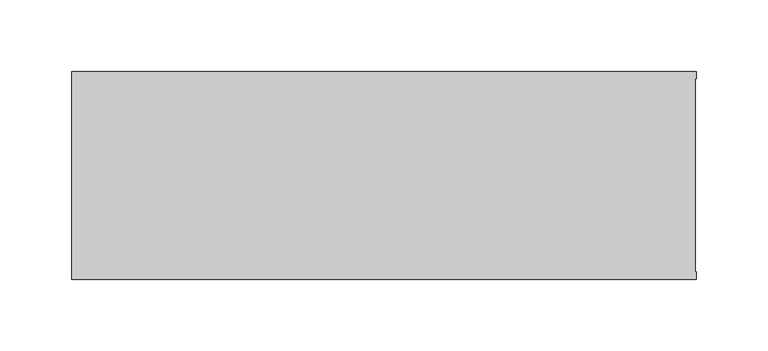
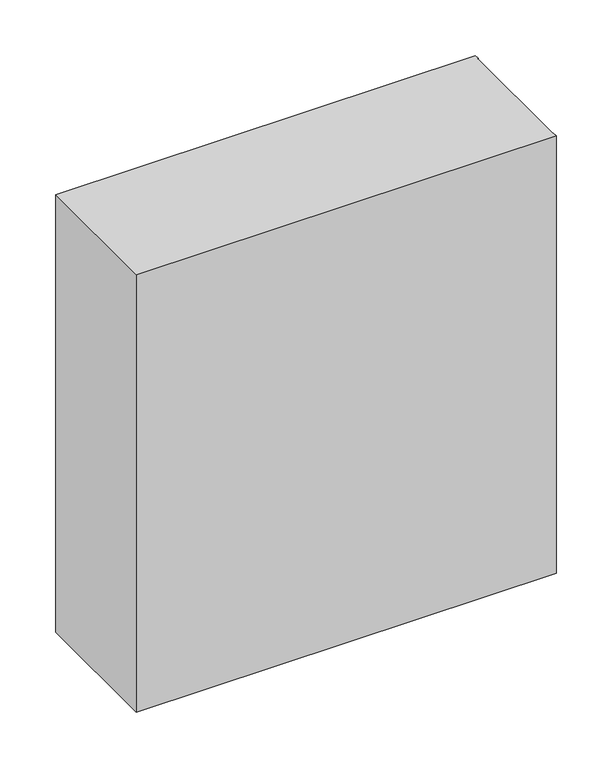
"""IFC4 building model written with IfcOpenShell, lengths in millimetres: proxy geometry, BIMHealth-Danicentre_ppe_Dispenser-LOD2A-v1 : BIMHealth-Danicentre_ppe_Dispenser-LOD2A-v1."""

from ifc_helpers import new_model, si_unit, frame, origin, place, context, project, spatial, polyline, circle_curve, source, transform, mapped, element, save
from ifc_brep_helpers import plane_surface, revolved_surface, advanced_brep


def generic_models_a98e07a5(model_context):
    return source(origin(), model_context, "Body", "AdvancedBrep", [
        advanced_brep(
        [(435.5947115, 0.0, 1680.0), (435.5947115, 0.0, 1200.0), (0.0, 0.0, 1200.0), (0.0, 0.0, 1680.0), (95.0, 0.0, 1600.0), (60.0, 0.0, 1600.0), (60.0, 0.0, 1425.0), (95.0, 0.0, 1425.0), (340.5947115, 0.0, 1600.0), (340.5947115, 0.0, 1425.0), (375.5947115, 0.0, 1425.0), (375.5947115, 0.0, 1600.0), (235.2973558, 0.0, 1600.0), (200.2973558, 0.0, 1600.0), (200.2973558, 0.0, 1425.0), (235.2973558, 0.0, 1425.0), (60.0, 0.0, 1255.0), (375.5947115, 0.0, 1255.0), (375.5947115, 0.0, 1270.0), (287.7973558, 0.0, 1270.0), (147.7973558, 0.0, 1270.0), (60.0, 0.0, 1270.0), (430.5947115, -5.0, 1205.0), (430.5947115, -5.0, 1675.0), (5.0, -5.0, 1675.0), (5.0, -5.0, 1205.0), (95.0, -5.0, 1600.0), (95.0, -5.0, 1425.0), (60.0, -5.0, 1425.0), (60.0, -5.0, 1600.0), (340.5947115, -5.0, 1600.0), (375.5947115, -5.0, 1600.0), (375.5947115, -5.0, 1425.0), (340.5947115, -5.0, 1425.0), (235.2973558, -5.0, 1600.0), (235.2973558, -5.0, 1425.0), (200.2973558, -5.0, 1425.0), (200.2973558, -5.0, 1600.0), (60.0, -5.0, 1255.0), (60.0, -5.0, 1270.0), (147.7973558, -5.0, 1270.0), (287.7973558, -5.0, 1270.0), (375.5947115, -5.0, 1270.0), (375.5947115, -5.0, 1255.0), (435.5947115, -5.0, 1200.0), (435.5947115, -5.0, 1680.0), (435.0, -5.0, 1680.0), (435.0, -5.0, 1200.0), (0.0, -145.0, 1680.0), (435.5947115, -145.0, 1680.0), (435.5947115, -140.0, 1680.0), (435.0, -140.0, 1680.0), (0.0, -145.0, 1200.0), (435.0, -140.0, 1200.0), (435.5947115, -140.0, 1200.0), (435.5947115, -145.0, 1200.0), (430.5947115, -140.0, 1675.0), (430.5947115, -140.0, 1205.0), (5.0, -140.0, 1205.0), (5.0, -140.0, 1675.0)],
        [
            (0, 1),
            (1, 2),
            (2, 3),
            (3, 0),
            (4, 5),
            (5, 6),
            (6, 7),
            (7, 4),
            (8, 9),
            (9, 10),
            (10, 11),
            (11, 8),
            (12, 13),
            (13, 14),
            (14, 15),
            (15, 12),
            (16, 17),
            (17, 18),
            (18, 19),
            (19, 20, circle_curve(frame((217.7973558, 0.0, 1234.1168757), z_axis=(0.0, -1.0, 0.0), x_axis=(1.0, 0.0, 0.0)), 78.6612904)),
            (20, 21),
            (21, 16),
            (22, 23),
            (23, 24),
            (24, 25),
            (25, 22),
            (26, 27),
            (27, 28),
            (28, 29),
            (29, 26),
            (30, 31),
            (31, 32),
            (32, 33),
            (33, 30),
            (34, 35),
            (35, 36),
            (36, 37),
            (37, 34),
            (38, 39),
            (39, 40),
            (40, 41, circle_curve(frame((217.7973558, -5.0, 1234.1168757), z_axis=(0.0, 1.0, 0.0), x_axis=(1.0, 0.0, 0.0)), 78.6612904)),
            (41, 42),
            (42, 43),
            (43, 38),
            (44, 45),
            (45, 46),
            (46, 47),
            (47, 44),
            (3, 48),
            (48, 49),
            (49, 50),
            (50, 51),
            (51, 46),
            (45, 0),
            (2, 52),
            (52, 48),
            (1, 44),
            (47, 53),
            (53, 54),
            (54, 55),
            (55, 52),
            (7, 27),
            (26, 4),
            (6, 28),
            (5, 29),
            (11, 31),
            (30, 8),
            (10, 32),
            (9, 33),
            (15, 35),
            (34, 12),
            (14, 36),
            (13, 37),
            (21, 39),
            (38, 16),
            (20, 40),
            (19, 41),
            (18, 42),
            (17, 43),
            (56, 23),
            (22, 57),
            (57, 56),
            (25, 58),
            (58, 57),
            (24, 59),
            (59, 58),
            (56, 59),
            (55, 49),
            (50, 54),
            (53, 51),
        ],
        [
            plane_surface(frame((435.5947115, 0.0, 1680.0), z_axis=(0.0, 1.0, 0.0), x_axis=(0.0, 0.0, -1.0))),
            plane_surface(frame((435.5947115, -5.0, 1680.0), z_axis=(0.0, -1.0, 0.0), x_axis=(0.0, 0.0, 1.0))),
            plane_surface(frame((0.0, 0.0, 1680.0), z_axis=(0.0, 0.0, 1.0), x_axis=(0.0, -1.0, 0.0))),
            plane_surface(frame((0.0, 0.0, 1200.0), z_axis=(-1.0, 0.0, 0.0), x_axis=(0.0, -1.0, 0.0))),
            plane_surface(frame((435.5947115, 0.0, 1200.0), z_axis=(0.0, 0.0, -1.0), x_axis=(0.0, -1.0, 0.0))),
            plane_surface(frame((435.5947115, 0.0, 1680.0), z_axis=(1.0, 0.0, 0.0), x_axis=(0.0, -1.0, 0.0))),
            plane_surface(frame((95.0, 0.0, 1425.0), z_axis=(-1.0, 0.0, 0.0), x_axis=(0.0, -1.0, 0.0))),
            plane_surface(frame((60.0, 0.0, 1425.0), z_axis=(0.0, 0.0, 1.0), x_axis=(0.0, -1.0, 0.0))),
            plane_surface(frame((60.0, 0.0, 1600.0), z_axis=(1.0, 0.0, 0.0), x_axis=(0.0, -1.0, 0.0))),
            plane_surface(frame((95.0, 0.0, 1600.0), z_axis=(0.0, 0.0, -1.0), x_axis=(0.0, -1.0, 0.0))),
            plane_surface(frame((375.5947115, 0.0, 1600.0), z_axis=(0.0, 0.0, -1.0), x_axis=(0.0, -1.0, 0.0))),
            plane_surface(frame((375.5947115, 0.0, 1425.0), z_axis=(-1.0, 0.0, 0.0), x_axis=(0.0, -1.0, 0.0))),
            plane_surface(frame((340.5947115, 0.0, 1425.0), z_axis=(0.0, 0.0, 1.0), x_axis=(0.0, -1.0, 0.0))),
            plane_surface(frame((340.5947115, 0.0, 1600.0), z_axis=(1.0, 0.0, 0.0), x_axis=(0.0, -1.0, 0.0))),
            plane_surface(frame((235.2973558, 0.0, 1425.0), z_axis=(-1.0, 0.0, 0.0), x_axis=(0.0, -1.0, 0.0))),
            plane_surface(frame((200.2973558, 0.0, 1425.0), z_axis=(0.0, 0.0, 1.0), x_axis=(0.0, -1.0, 0.0))),
            plane_surface(frame((200.2973558, 0.0, 1600.0), z_axis=(1.0, 0.0, 0.0), x_axis=(0.0, -1.0, 0.0))),
            plane_surface(frame((235.2973558, 0.0, 1600.0), z_axis=(0.0, 0.0, -1.0), x_axis=(0.0, -1.0, 0.0))),
            plane_surface(frame((60.0, 0.0, 1270.0), z_axis=(1.0, 0.0, 0.0), x_axis=(0.0, -1.0, 0.0))),
            plane_surface(frame((147.7973558, 0.0, 1270.0), z_axis=(0.0, 0.0, -1.0), x_axis=(0.0, -1.0, 0.0))),
            revolved_surface(polyline([(296.4586462, -5.0, 1234.1168757), (296.4586462, 0.0, 1234.1168757)]), (217.7973558, -140.0, 1234.1168757), (0.0, -1.0, 0.0)),
            plane_surface(frame((375.5947115, 0.0, 1270.0), z_axis=(0.0, 0.0, -1.0), x_axis=(0.0, -1.0, 0.0))),
            plane_surface(frame((375.5947115, 0.0, 1255.0), z_axis=(-1.0, 0.0, 0.0), x_axis=(0.0, -1.0, 0.0))),
            plane_surface(frame((60.0, 0.0, 1255.0), z_axis=(0.0, 0.0, 1.0), x_axis=(0.0, -1.0, 0.0))),
            plane_surface(frame((430.5947115, -140.0, 1675.0), z_axis=(-1.0, 0.0, 0.0), x_axis=(0.0, 1.0, 0.0))),
            plane_surface(frame((430.5947115, -140.0, 1205.0), z_axis=(0.0, 0.0, 1.0), x_axis=(0.0, 1.0, 0.0))),
            plane_surface(frame((5.0, -140.0, 1205.0), z_axis=(1.0, 0.0, 0.0), x_axis=(0.0, 1.0, 0.0))),
            plane_surface(frame((5.0, -140.0, 1675.0), z_axis=(0.0, 0.0, -1.0), x_axis=(0.0, 1.0, 0.0))),
            plane_surface(frame((0.0, -145.0, 1680.0), z_axis=(0.0, -1.0, 0.0), x_axis=(-1.0, 0.0, 0.0))),
            plane_surface(frame((0.0, -140.0, 1680.0), z_axis=(0.0, 1.0, 0.0), x_axis=(1.0, 0.0, 0.0))),
            plane_surface(frame((435.0, -140.0, 1200.0), z_axis=(1.0, 0.0, 0.0), x_axis=(0.0, 1.0, 0.0))),
            plane_surface(frame((435.5947115, -145.0, 1200.0), z_axis=(1.0, 0.0, 0.0), x_axis=(0.0, 1.0, 0.0))),
        ],
        [
            (0, [[1, 2, 3, 4], [5, 6, 7, 8], [9, 10, 11, 12], [13, 14, 15, 16], [17, 18, 19, 20, 21, 22]]),
            (1, [[23, 24, 25, 26], [27, 28, 29, 30], [31, 32, 33, 34], [35, 36, 37, 38], [39, 40, 41, 42, 43, 44]]),
            (1, [[45, 46, 47, 48]]),
            (2, [[-4, 49, 50, 51, 52, 53, -46, 54]]),
            (3, [[-49, -3, 55, 56]]),
            (4, [[-55, -2, 57, -48, 58, 59, 60, 61]]),
            (5, [[-1, -54, -45, -57]]),
            (6, [[-8, 62, -27, 63]]),
            (7, [[-7, 64, -28, -62]]),
            (8, [[-6, 65, -29, -64]]),
            (9, [[-5, -63, -30, -65]]),
            (10, [[-12, 66, -31, 67]]),
            (11, [[-11, 68, -32, -66]]),
            (12, [[-10, 69, -33, -68]]),
            (13, [[-9, -67, -34, -69]]),
            (14, [[-16, 70, -35, 71]]),
            (15, [[-15, 72, -36, -70]]),
            (16, [[-14, 73, -37, -72]]),
            (17, [[-13, -71, -38, -73]]),
            (18, [[-22, 74, -39, 75]]),
            (19, [[-21, 76, -40, -74]]),
            (20, [[-20, 77, -41, -76]]),
            (21, [[-19, 78, -42, -77]]),
            (22, [[-18, 79, -43, -78]]),
            (23, [[-17, -75, -44, -79]]),
            (24, [[80, -23, 81, 82]]),
            (25, [[-81, -26, 83, 84]]),
            (26, [[-83, -25, 85, 86]]),
            (27, [[-80, 87, -85, -24]]),
            (28, [[-50, -56, -61, 88]]),
            (29, [[-82, -84, -86, -87]]),
            (29, [[89, -59, 90, -52]]),
            (30, [[-53, -90, -58, -47]]),
            (31, [[-88, -60, -89, -51]]),
        ],
    ),
    ])


if __name__ == "__main__":
    model = new_model("IFC4")
    model_context = context("Model", 3, world=origin())
    ifc_project = project(units=[si_unit("LENGTHUNIT", "METRE", prefix="MILLI")], contexts=[model_context])
    site = spatial("IfcSite", under=ifc_project)
    building = spatial("IfcBuilding", under=site)
    placement = place(None, origin())
    generic_models_shape = generic_models_a98e07a5(model_context)
    element("IfcBuildingElementProxy", 1, Name="BIMHealth-Danicentre_ppe_Dispenser-LOD2A-v1 : BIMHealth-Danicentre_ppe_Dispenser-LOD2A-v1", ObjectType="BIMHealth-Danicentre_ppe_Dispenser-LOD2A-v1 : BIMHealth-Danicentre_ppe_Dispenser-LOD2A-v1", at=placement, inside=building, context=model_context, shape_type="MappedRepresentation", body=[
        mapped(generic_models_shape, transform((0.0, 0.0, 0.0), x_axis=(1.0, 0.0, 0.0), y_axis=(0.0, 1.0, 0.0), z_axis=(0.0, 0.0, 1.0))),
    ])
    save(model, "model.ifc")
